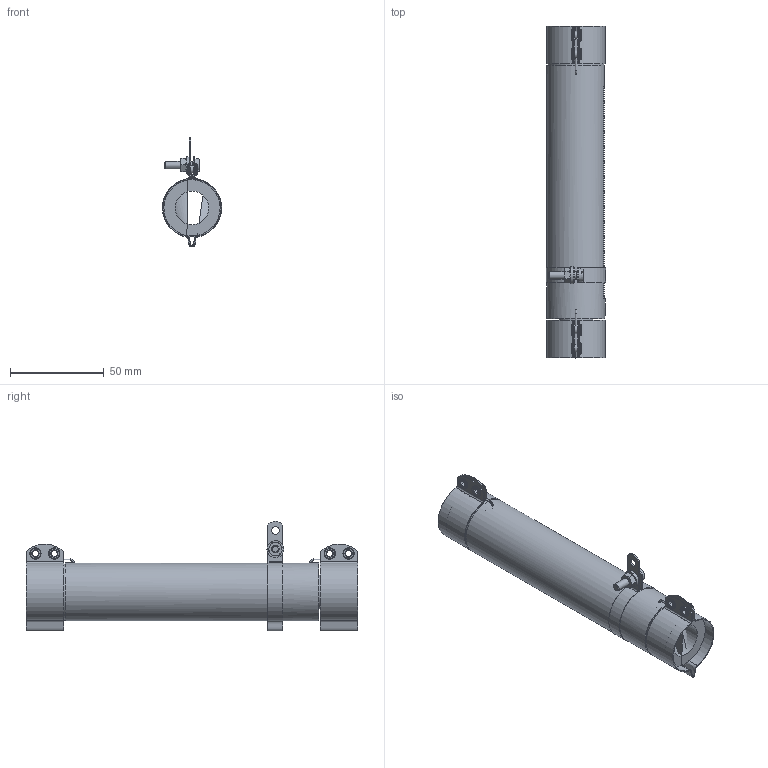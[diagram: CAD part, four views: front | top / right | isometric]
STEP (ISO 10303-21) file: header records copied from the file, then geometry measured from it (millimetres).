
FILE_DESCRIPTION(/* description */ (''),/* implementation_level */ '2;1');
FILE_NAME(/* name */ 'C:\_Vault\Dati\CATALOGO\RC-RS\RC-RS R TF\RSR TF 160.stp',/* time_stamp */ '2014-03-21T09:12:28+01:00',/* author */ ('stefano'),/* organization */ (''),/* preprocessor_version */ 'ST-DEVELOPER v15.2',/* originating_system */ 'Autodesk Inventor 2014',/* authorisation */ '');
FILE_SCHEMA (('AUTOMOTIVE_DESIGN { 1 0 10303 214 3 1 1 }'));
Length unit declared in the file: millimetre
Products named in the file (1): RSR TF 160
Bounding box: 31.57 x 177 x 58.36 mm (x, y, z)
Volume: 77112.6 mm3; surface area: 34480.3 mm2
Topology: 1 solids, 6 shells, 514 faces, 1418 edges, 935 vertices
Faces by surface type: plane 338, cylinder 127, torus 20, cone 17, bspline 12
Full cylindrical faces by diameter (mm): 0.4 x2, 0.8 x4, 3.2 x4, 3.571 x1, 4 x2, 4.2 x11, 4.3 x1, 6 x8, 9 x1, 18 x1, 30 x3, 31 x1
Entity records: 17321 total; most frequent: CARTESIAN_POINT 3684, DIRECTION 2774, ORIENTED_EDGE 2676, EDGE_CURVE 1338, AXIS2_PLACEMENT_3D 1008, VERTEX_POINT 916, LINE 758, VECTOR 758
